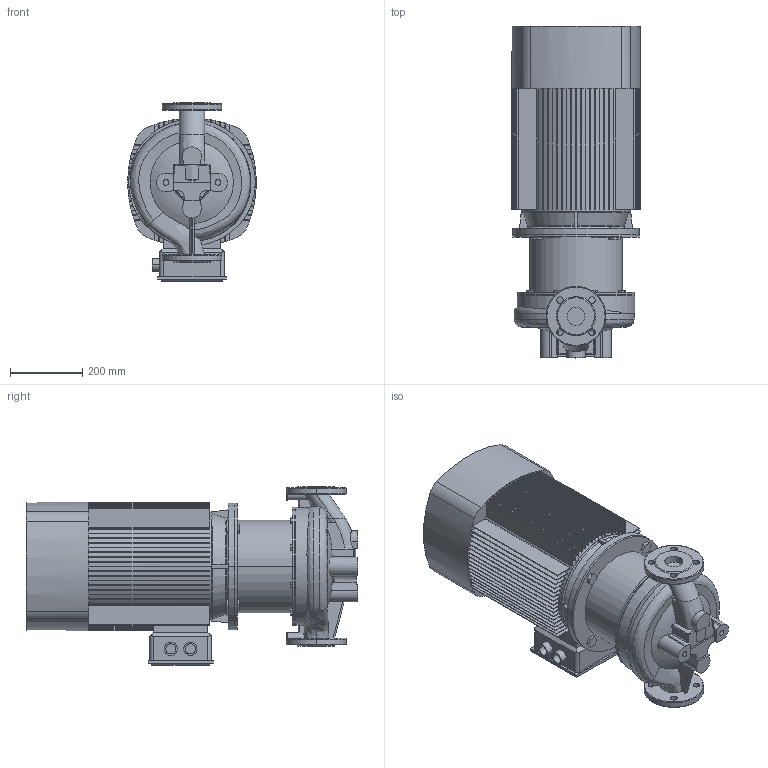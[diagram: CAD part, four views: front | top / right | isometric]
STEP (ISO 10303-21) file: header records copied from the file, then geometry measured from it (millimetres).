
FILE_DESCRIPTION (( 'STEP AP203' ), '1' );
FILE_NAME ('TD50-81G_2.STEP', '2022-04-28T10:41:32', ( '' ), ( '' ), 'SwSTEP 2.0', 'SolidWorks 2019', '' );
FILE_SCHEMA (( 'CONFIG_CONTROL_DESIGN' ));
Length unit declared in the file: millimetre
Products named in the file (4): Pr_ch 50 - 50_60_70_81_TD50-81G_2; TD50-81G_2; ED_B5_YE2-180M-2 (22); Fon_50_TD50-81G_2
Assembly tree (3 placements, depth 2):
  TD50-81G_2
    Pr_ch 50 - 50_60_70_81_TD50-81G_2
    Fon_50_TD50-81G_2
    ED_B5_YE2-180M-2 (22)
Bounding box: 355 x 917 x 493 mm (x, y, z)
Volume: 64086456.4 mm3; surface area: 3349508 mm2
Topology: 5 solids, 5 shells, 711 faces, 1956 edges, 1285 vertices
Faces by surface type: plane 499, cylinder 140, torus 29, bspline 24, cone 17, sphere 2
Entity records: 28176 total; most frequent: CARTESIAN_POINT 9424, ORIENTED_EDGE 3908, DIRECTION 3818, EDGE_CURVE 1954, AXIS2_PLACEMENT_3D 1330, VERTEX_POINT 1285, LINE 1158, VECTOR 1158
